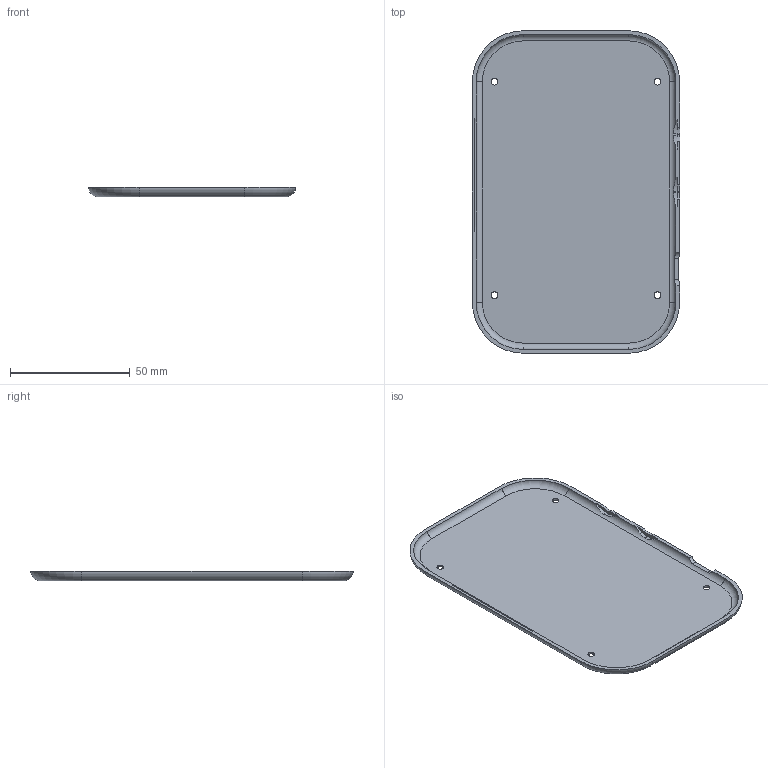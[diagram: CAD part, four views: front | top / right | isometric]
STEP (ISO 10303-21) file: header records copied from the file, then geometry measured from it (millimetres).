
FILE_DESCRIPTION(('Open CASCADE Model'),'2;1');
FILE_NAME('Open CASCADE Shape Model','2026-09-06T11:30:50',('Author'),( 'Open CASCADE'),'Open CASCADE STEP processor 7.7','Open CASCADE 7.7' ,'Unknown');
FILE_SCHEMA(('AUTOMOTIVE_DESIGN { 1 0 10303 214 1 1 1 1 }'));
Length unit declared in the file: millimetre
Products named in the file (1): Open CASCADE STEP translator 7.7 26
Bounding box: 86.4 x 134.4 x 4.15 mm (x, y, z)
Volume: 18413.7 mm3; surface area: 23999.3 mm2
Topology: 1 solids, 1 shells, 72 faces, 192 edges, 128 vertices
Faces by surface type: cylinder 36, plane 28, torus 8
Full cylindrical faces by diameter (mm): 2.8 x4, 5.3 x4
Entity records: 5391 total; most frequent: CARTESIAN_POINT 1645, DIRECTION 681, ORIENTED_EDGE 384, PCURVE 384, DEFINITIONAL_REPRESENTATION 384, LINE 368, VECTOR 368, EDGE_CURVE 192
